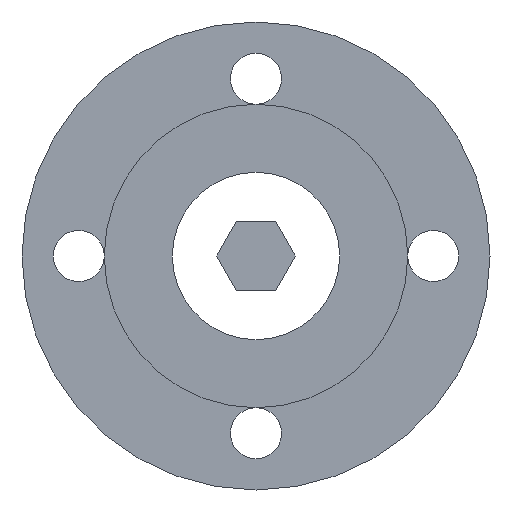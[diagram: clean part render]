
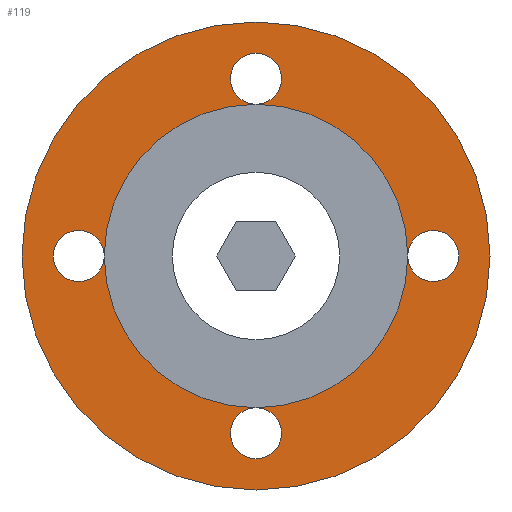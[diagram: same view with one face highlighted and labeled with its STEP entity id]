
A CAD part, front view. The second image highlights one B-rep face of the part: STEP entity #119.
In plain terms, the highlighted planar face has unit normal (0, -1, 0).
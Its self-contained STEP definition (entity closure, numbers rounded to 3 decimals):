
#119 = ADVANCED_FACE( '', ( #212, #213, #214, #215, #216, #217 ), #218, .T. );
#212 = FACE_OUTER_BOUND( '', #314, .T. );
#213 = FACE_BOUND( '', #315, .T. );
#214 = FACE_BOUND( '', #316, .T. );
#215 = FACE_BOUND( '', #317, .T. );
#216 = FACE_BOUND( '', #318, .T. );
#217 = FACE_BOUND( '', #319, .T. );
#218 = PLANE( '', #320 );
#314 = EDGE_LOOP( '', ( #435 ) );
#315 = EDGE_LOOP( '', ( #436 ) );
#316 = EDGE_LOOP( '', ( #437 ) );
#317 = EDGE_LOOP( '', ( #438 ) );
#318 = EDGE_LOOP( '', ( #439 ) );
#319 = EDGE_LOOP( '', ( #440 ) );
#320 = AXIS2_PLACEMENT_3D( '', #441, #442, #443 );
#435 = ORIENTED_EDGE( '', *, *, #572, .T. );
#436 = ORIENTED_EDGE( '', *, *, #560, .T. );
#437 = ORIENTED_EDGE( '', *, *, #573, .F. );
#438 = ORIENTED_EDGE( '', *, *, #574, .F. );
#439 = ORIENTED_EDGE( '', *, *, #575, .F. );
#440 = ORIENTED_EDGE( '', *, *, #576, .F. );
#441 = CARTESIAN_POINT( '', ( 34., 0., 0. ) );
#442 = DIRECTION( '', ( 0., -1., 0. ) );
#443 = DIRECTION( '', ( 0., 0., -1. ) );
#560 = EDGE_CURVE( '', #628, #628, #629, .F. );
#572 = EDGE_CURVE( '', #645, #645, #646, .T. );
#573 = EDGE_CURVE( '', #647, #647, #648, .T. );
#574 = EDGE_CURVE( '', #649, #649, #650, .T. );
#575 = EDGE_CURVE( '', #651, #651, #652, .T. );
#576 = EDGE_CURVE( '', #653, #653, #654, .T. );
#628 = VERTEX_POINT( '', #728 );
#629 = CIRCLE( '', #729, 9. );
#645 = VERTEX_POINT( '', #751 );
#646 = CIRCLE( '', #752, 82.5 );
#647 = VERTEX_POINT( '', #753 );
#648 = CIRCLE( '', #754, 9. );
#649 = VERTEX_POINT( '', #755 );
#650 = CIRCLE( '', #756, 9. );
#651 = VERTEX_POINT( '', #757 );
#652 = CIRCLE( '', #758, 9. );
#653 = VERTEX_POINT( '', #759 );
#654 = CIRCLE( '', #760, 34. );
#728 = CARTESIAN_POINT( '', ( 62.5, 0., -9. ) );
#729 = AXIS2_PLACEMENT_3D( '', #808, #809, #810 );
#751 = CARTESIAN_POINT( '', ( 0., 0., -82.5 ) );
#752 = AXIS2_PLACEMENT_3D( '', #823, #824, #825 );
#753 = CARTESIAN_POINT( '', ( 0., 0., -71.5 ) );
#754 = AXIS2_PLACEMENT_3D( '', #826, #827, #828 );
#755 = CARTESIAN_POINT( '', ( -62.5, 0., -9. ) );
#756 = AXIS2_PLACEMENT_3D( '', #829, #830, #831 );
#757 = CARTESIAN_POINT( '', ( 0., 0., 53.5 ) );
#758 = AXIS2_PLACEMENT_3D( '', #832, #833, #834 );
#759 = CARTESIAN_POINT( '', ( 0., 0., -34. ) );
#760 = AXIS2_PLACEMENT_3D( '', #835, #836, #837 );
#808 = CARTESIAN_POINT( '', ( 62.5, 0., 0. ) );
#809 = DIRECTION( '', ( 0., -1., 0. ) );
#810 = DIRECTION( '', ( 0., 0., -1. ) );
#823 = CARTESIAN_POINT( '', ( 0., 0., 0. ) );
#824 = DIRECTION( '', ( 0., -1., 0. ) );
#825 = DIRECTION( '', ( 0., 0., -1. ) );
#826 = CARTESIAN_POINT( '', ( 0., 0., -62.5 ) );
#827 = DIRECTION( '', ( 0., -1., 0. ) );
#828 = DIRECTION( '', ( 0., 0., -1. ) );
#829 = CARTESIAN_POINT( '', ( -62.5, 0., 0. ) );
#830 = DIRECTION( '', ( 0., -1., 0. ) );
#831 = DIRECTION( '', ( 0., 0., -1. ) );
#832 = CARTESIAN_POINT( '', ( 0., 0., 62.5 ) );
#833 = DIRECTION( '', ( 0., -1., 0. ) );
#834 = DIRECTION( '', ( 0., 0., -1. ) );
#835 = CARTESIAN_POINT( '', ( 0., 0., 0. ) );
#836 = DIRECTION( '', ( 0., -1., 0. ) );
#837 = DIRECTION( '', ( 0., 0., -1. ) );
